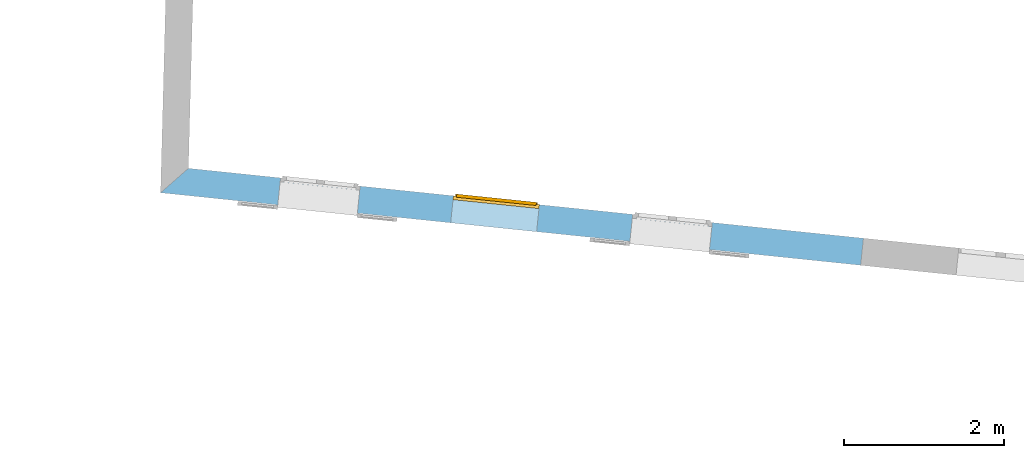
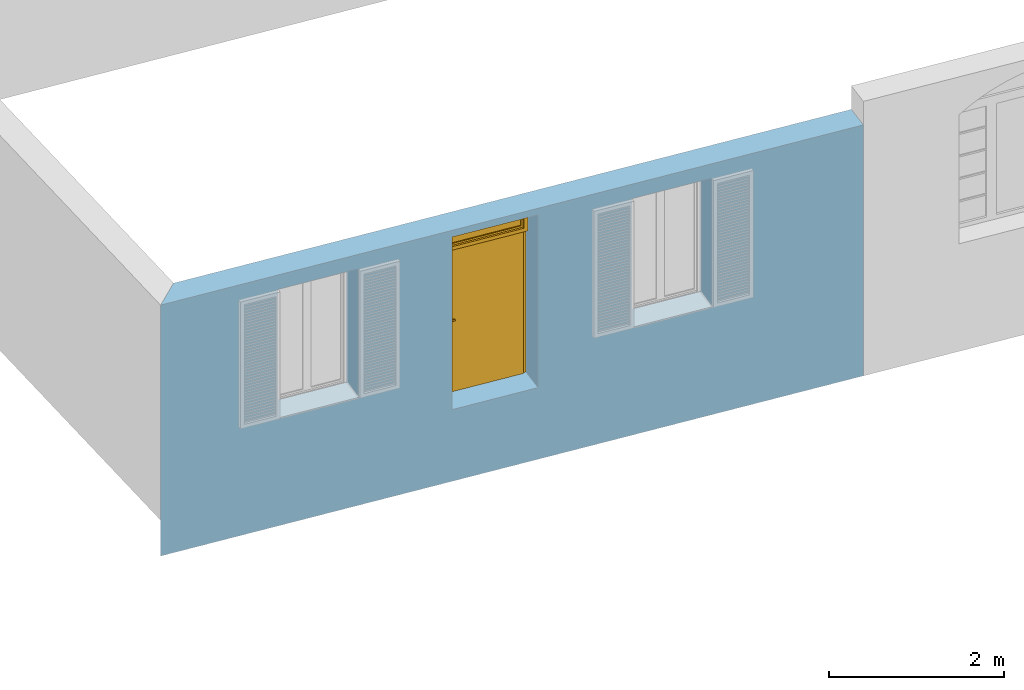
# One storey, part 113 of 171: 1 door, 1 window, 4 openings, plus 1 element that does not belong to this part.
"""IFC2X3 building model written with IfcOpenShell, lengths in millimetres."""

from ifc_helpers import new_model, entity, si_unit, converted_unit, derived_unit, money_unit, direction, frame, origin_with_axes, origin_2d_with_axis, place, context, subcontext, project, spatial, polyline, rectangle, outline, extrude, open_shell, faceted_brep, surface_model, material, layer, layer_set, layer_usage, type_object, element, fill, save


model = new_model("IFC2X3")

# Units and contexts
model_context = context("Model", 3, precision=0.01, world=origin_with_axes(), true_north=direction((0.0, 1.0)))
body_context = subcontext(model_context, "Body", "Model", "MODEL_VIEW")
ifc_project = project(units=[si_unit("LENGTHUNIT", "METRE", prefix="MILLI"), si_unit("AREAUNIT", "SQUARE_METRE"), si_unit("VOLUMEUNIT", "CUBIC_METRE"), converted_unit("PLANEANGLEUNIT", "DEGREE", entity("IfcPlaneAngleMeasure", 0.0174532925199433), si_unit("PLANEANGLEUNIT", "RADIAN"), dimensions=[0, 0, 0, 0, 0, 0, 0]), money_unit("USD"), converted_unit("TIMEUNIT", "Year", entity("IfcTimeMeasure", 31557600.0), si_unit("TIMEUNIT", "SECOND"), dimensions=[0, 0, 1, 0, 0, 0, 0]), si_unit("MASSUNIT", "GRAM", prefix="KILO"), si_unit("THERMODYNAMICTEMPERATUREUNIT", "DEGREE_CELSIUS"), si_unit("LUMINOUSINTENSITYUNIT", "LUMEN"), si_unit("ENERGYUNIT", "JOULE", prefix="MEGA"), derived_unit("THERMALCONDUCTANCEUNIT", [(si_unit("POWERUNIT", "WATT"), 1), (si_unit("LENGTHUNIT", "METRE"), -1), (si_unit("THERMODYNAMICTEMPERATUREUNIT", "KELVIN"), -1)]), derived_unit("SPECIFICHEATCAPACITYUNIT", [(si_unit("ENERGYUNIT", "JOULE"), 1), (si_unit("MASSUNIT", "GRAM", prefix="KILO"), -1), (si_unit("THERMODYNAMICTEMPERATUREUNIT", "KELVIN"), -1)]), derived_unit("MASSDENSITYUNIT", [(si_unit("MASSUNIT", "GRAM", prefix="KILO"), 1), (si_unit("VOLUMEUNIT", "CUBIC_METRE"), -1)])], contexts=[model_context])

# Site, building, storey
site_placement = place(None, origin_with_axes())
site = spatial("IfcSite", under=ifc_project, at=site_placement, Name="Site", CompositionType="ELEMENT")
building_placement = place(site_placement, origin_with_axes())
building = spatial("IfcBuilding", under=site, at=building_placement, Name="Bâtiment", CompositionType="ELEMENT")
storey_placement = place(building_placement, frame((0.0, 0.0, 3000.0), z_axis=(0.0, 0.0, 1.0), x_axis=(1.0, 0.0, 0.0)))
storey = spatial("IfcBuildingStorey", under=building, at=storey_placement, Name="rdc", CompositionType="ELEMENT", Elevation=3000.0)

# Wall, openings, door, window
ifc_material = material(Name="Empty Fill 272047960")
ifc_layer = layer(ifc_material, 339.9999999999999, ventilated="UNKNOWN")
ifc_layer_set = layer_set([ifc_layer], Name="Empty Fill 272047960 340")
ifc_layer_usage = layer_usage(ifc_layer_set, "AXIS2", "NEGATIVE", 0.0)
wall_type = type_object("IfcWallType", Name="Empty Fill 272047960 340", PredefinedType="NOTDEFINED")
wall_placement = place(storey_placement, frame((2245882.942695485, -591753.5900529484, -500.0), z_axis=(0.0, 0.0, 1.0), x_axis=(-0.994678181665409, 0.1030306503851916, 0.0)))
wall = element("IfcWallStandardCase", 1, at=wall_placement, inside=storey, type_object=wall_type, material=ifc_layer_usage, Name="Mur-143", context=body_context, shape_type="SweptSolid", body=[
    extrude(outline(polyline([(0.0, -339.9999999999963), (8480.98711477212, -339.9999999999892), (8795.793367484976, 0.0), (-1.13686837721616e-10, 0.0), (0.0, -339.9999999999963)])), origin_with_axes(), (0.0, 0.0, 1.0), 3500.0),
])
opening_1_placement = place(wall_placement, frame((6823.329215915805, 0.0, 1500.0), z_axis=(0.0, 0.0, 1.0), x_axis=(1.0, 0.0, 0.0)))
element("IfcOpeningElement", 2, at=opening_1_placement, cuts=wall, Name="Fen-207", context=body_context, shape_type="SweptSolid", body=[
    extrude(rectangle(XDim=1000.000000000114, YDim=1800.0, at=origin_2d_with_axis()), frame((0.0, -289.999999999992, 900.0000000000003), z_axis=(0.0, -1.0, 0.0), x_axis=(-1.0, 0.0, 0.0)), (0.0, 0.0, -1.0), 629.9999999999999),
    extrude(rectangle(XDim=1000.000000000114, YDim=1800.0, at=origin_2d_with_axis()), frame((0.0, -289.9999999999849, 900.0000000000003), z_axis=(0.0, 1.0, 0.0), x_axis=(-1.0, 0.0, 0.0)), (0.0, 0.0, -1.0), 389.9999999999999),
])
opening_2_placement = place(wall_placement, frame((2398.957557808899, 0.0, 1500.0), z_axis=(0.0, 0.0, 1.0), x_axis=(1.0, 0.0, 0.0)))
element("IfcOpeningElement", 3, at=opening_2_placement, cuts=wall, Name="Fen-207", context=body_context, shape_type="SweptSolid", body=[
    extrude(rectangle(XDim=1000.000000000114, YDim=1800.0, at=origin_2d_with_axis()), frame((0.0, -289.999999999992, 900.0000000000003), z_axis=(0.0, 1.0, 0.0), x_axis=(1.0, 0.0, 0.0)), (0.0, 0.0, 1.0), 629.9999999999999),
    extrude(rectangle(XDim=1000.000000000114, YDim=1800.0, at=origin_2d_with_axis()), frame((0.0, -289.9999999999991, 900.0000000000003), z_axis=(0.0, -1.0, 0.0), x_axis=(1.0, 0.0, 0.0)), (0.0, 0.0, 1.0), 389.9999999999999),
])
opening_3_placement = place(wall_placement, frame((4611.143386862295, 0.0, 3000.0), z_axis=(0.0, 0.0, 1.0), x_axis=(1.0, 0.0, 0.0)))
opening_3 = element("IfcOpeningElement", 4, at=opening_3_placement, cuts=wall, Name="Fen-133", context=body_context, shape_type="SweptSolid", body=[
    extrude(rectangle(XDim=1080.000000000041, YDim=410.0000000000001, at=origin_2d_with_axis()), frame((1.13686837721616e-10, -289.999999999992, 205.0000000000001), z_axis=(0.0, -1.0, 0.0), x_axis=(-1.0, 0.0, 0.0)), (0.0, 0.0, -1.0), 629.9999999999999),
    extrude(rectangle(XDim=1079.999999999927, YDim=410.0000000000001, at=origin_2d_with_axis()), frame((1.13686837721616e-10, -289.999999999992, 205.0000000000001), z_axis=(0.0, 1.0, 0.0), x_axis=(-1.0, 0.0, 0.0)), (0.0, 0.0, -1.0), 389.9999999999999),
])
opening_4_placement = place(wall_placement, frame((4611.143386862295, 0.0, 1000.0), z_axis=(0.0, 0.0, 1.0), x_axis=(1.0, 0.0, 0.0)))
opening_4 = element("IfcOpeningElement", 5, at=opening_4_placement, cuts=wall, Name="Por-283", context=body_context, shape_type="SweptSolid", body=[
    extrude(rectangle(XDim=1080.000004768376, YDim=2080.0, at=origin_2d_with_axis()), frame((-2.384012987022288e-06, 340.0000000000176, 1040.0), z_axis=(0.0, -1.0, 0.0), x_axis=(-1.0, 0.0, 0.0)), (0.0, 0.0, 1.0), 679.9999999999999),
])
door_style = type_object("IfcDoorStyle", Name="Porte_1v", ConstructionType="NOTDEFINED", OperationType="NOTDEFINED", ParameterTakesPrecedence=False, Sizeable=False)
door_placement = place(opening_4_placement, frame((500.0, -1.06581410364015e-10, 0.0), z_axis=(0.0, 0.0, 1.0), x_axis=(-1.0, 0.0, 0.0)))
door = element("IfcDoor", 6, at=door_placement, inside=storey, type_object=door_style, Name="Por-283", OverallHeight=2040.0, OverallWidth=1000.0, context=body_context, shape_type="Brep", body=[
    faceted_brep([(1039.999999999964, 339.9999999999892, 0.0), (984.9999999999, 339.9999999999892, 0.0), (984.9999999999, 339.9999999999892, 2025.0), (15.00000000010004, 339.9999999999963, 2025.0), (15.00000000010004, 339.9999999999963, 0.0), (-39.99999999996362, 339.9999999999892, 0.0), (-39.99999999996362, 339.9999999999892, 2080.0), (1039.999999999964, 339.9999999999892, 2080.0), (1000.000000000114, 339.9999999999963, 0.0), (1000.000000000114, 324.9999999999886, 0.0), (985.0000000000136, 324.9999999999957, 0.0), (985.0000000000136, 324.9999999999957, 2025.0), (15.00000000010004, 325.0000000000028, 2025.0), (15.00000000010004, 325.0000000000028, 0.0), (0.0, 324.9999999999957, 0.0), (0.0, 339.9999999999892, 0.0), (0.0, 339.9999999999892, 2040.0), (1000.000000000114, 339.9999999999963, 2040.0), (1000.000000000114, 324.9999999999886, 2040.0), (0.0, 324.9999999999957, 2040.0)], [[[0, 1, 2, 3, 4, 5, 6, 7]], [[0, 8, 9, 10, 1]], [[1, 10, 11, 2]], [[2, 11, 12, 3]], [[3, 12, 13, 4]], [[5, 4, 13, 14, 15]], [[8, 0, 7, 6, 5, 15, 16, 17]], [[9, 8, 17, 18]], [[10, 9, 18, 19, 14, 13, 12, 11]], [[19, 16, 15, 14]], [[18, 17, 16, 19]]]),
    faceted_brep([(64.99999999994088, 324.9999999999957, 900.0000000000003), (25.00000000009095, 324.9999999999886, 900.0000000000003), (25.00000000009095, 324.9999999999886, 1100.0), (64.99999999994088, 324.9999999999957, 1100.0), (65.00000000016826, 314.9999999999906, 900.0000000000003), (24.99999999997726, 314.9999999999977, 900.0000000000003), (24.99999999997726, 314.9999999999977, 1100.0), (65.00000000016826, 314.9999999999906, 1100.0)], [[[0, 1, 2, 3]], [[1, 0, 4, 5]], [[2, 1, 5, 6]], [[3, 2, 6, 7]], [[0, 3, 7, 4]], [[5, 4, 7, 6]]]),
    faceted_brep([(135.0000000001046, 314.9999999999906, 1000.0), (35.00000000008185, 314.9999999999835, 1000.0), (35.00000000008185, 314.9999999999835, 1020.0), (135.0000000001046, 314.9999999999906, 1020.0), (135.0000000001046, 295.0000000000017, 1000.0), (35.00000000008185, 294.9999999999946, 1000.0), (35.00000000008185, 294.9999999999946, 1020.0), (135.0000000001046, 295.0000000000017, 1020.0)], [[[0, 1, 2, 3]], [[1, 0, 4, 5]], [[2, 1, 5, 6]], [[3, 2, 6, 7]], [[0, 3, 7, 4]], [[5, 4, 7, 6]]]),
    faceted_brep([(64.99999999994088, 374.9999999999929, 900.0000000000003), (25.00000000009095, 374.9999999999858, 900.0000000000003), (25.00000000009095, 374.9999999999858, 1100.0), (64.99999999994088, 374.9999999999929, 1100.0), (64.99999999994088, 364.9999999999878, 900.0000000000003), (25.00000000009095, 365.000000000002, 900.0000000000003), (25.00000000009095, 365.000000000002, 1100.0), (64.99999999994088, 364.9999999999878, 1100.0)], [[[0, 1, 2, 3]], [[1, 0, 4, 5]], [[2, 1, 5, 6]], [[3, 2, 6, 7]], [[0, 3, 7, 4]], [[5, 4, 7, 6]]]),
    faceted_brep([(134.9999999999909, 394.9999999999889, 1000.0), (34.99999999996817, 394.9999999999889, 1000.0), (34.99999999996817, 394.9999999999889, 1020.0), (134.9999999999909, 394.9999999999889, 1020.0), (135.0000000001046, 375.0, 1000.0), (35.00000000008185, 375.0, 1000.0), (35.00000000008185, 375.0, 1020.0), (135.0000000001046, 375.0, 1020.0)], [[[0, 1, 2, 3]], [[1, 0, 4, 5]], [[2, 1, 5, 6]], [[3, 2, 6, 7]], [[0, 3, 7, 4]], [[5, 4, 7, 6]]]),
    faceted_brep([(0.0, 364.9999999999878, 0.0), (1000.0, 364.9999999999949, 0.0), (1000.000000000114, 324.9999999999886, 0.0), (0.0, 324.9999999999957, 0.0), (0.0, 364.9999999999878, 2040.0), (1000.0, 364.9999999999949, 2040.0), (1000.000000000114, 324.9999999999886, 2040.0), (0.0, 324.9999999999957, 2040.0)], [[[0, 1, 2, 3]], [[0, 4, 5, 1]], [[1, 5, 6, 2]], [[3, 2, 6, 7]], [[4, 0, 3, 7]], [[5, 4, 7, 6]]]),
])
fill(opening_4, door)
window_style = type_object("IfcWindowStyle", Name="Fenêtre 27", ConstructionType="NOTDEFINED", OperationType="SINGLE_PANEL", ParameterTakesPrecedence=False, Sizeable=False)
window_placement = place(opening_3_placement, frame((539.9999999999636, 0.0, 0.0), z_axis=(0.0, 0.0, 1.0), x_axis=(-1.0, 0.0, 0.0)))
window = element("IfcWindow", 7, at=window_placement, inside=storey, type_object=window_style, Name="Fen-133", OverallHeight=410.0, OverallWidth=1080.0, context=body_context, shape_type="SurfaceModel", body=[
    faceted_brep([(24.99999999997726, 339.9999999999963, 360.0000000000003), (0.0, 339.9999999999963, 360.0000000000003), (1.13686837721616e-10, 290.0000000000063, 360.0000000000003), (50.00000000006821, 289.9999999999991, 360.0000000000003), (50.00000000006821, 314.9999999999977, 360.0000000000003), (25.00000000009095, 314.9999999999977, 360.0000000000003), (24.99999999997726, 339.9999999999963, 49.99999999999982), (0.0, 339.9999999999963, 49.99999999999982), (1.13686837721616e-10, 290.0000000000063, 49.99999999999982), (50.00000000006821, 289.9999999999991, 49.99999999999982), (50.00000000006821, 314.9999999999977, 49.99999999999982), (25.00000000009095, 314.9999999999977, 49.99999999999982)], [[[0, 1, 2, 3, 4, 5]], [[6, 7, 1, 0]], [[1, 7, 8, 2]], [[2, 8, 9, 3]], [[4, 3, 9, 10]], [[10, 11, 5, 4]], [[5, 11, 6, 0]], [[11, 10, 9, 8, 7, 6]]]),
    faceted_brep([(1029.999999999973, 314.9999999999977, 360.0000000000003), (1029.999999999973, 289.9999999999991, 360.0000000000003), (1079.999999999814, 289.999999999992, 360.0000000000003), (1079.999999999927, 340.0000000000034, 360.0000000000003), (1054.99999999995, 340.0000000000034, 360.0000000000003), (1054.999999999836, 314.9999999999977, 360.0000000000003), (1029.999999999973, 314.9999999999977, 49.99999999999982), (1029.999999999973, 289.9999999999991, 49.99999999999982), (1079.999999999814, 289.999999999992, 49.99999999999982), (1079.999999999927, 340.0000000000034, 49.99999999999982), (1054.99999999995, 340.0000000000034, 49.99999999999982), (1054.999999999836, 314.9999999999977, 49.99999999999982)], [[[0, 1, 2, 3, 4, 5]], [[6, 7, 1, 0]], [[8, 2, 1, 7]], [[9, 3, 2, 8]], [[4, 3, 9, 10]], [[10, 11, 5, 4]], [[5, 11, 6, 0]], [[11, 10, 9, 8, 7, 6]]]),
    faceted_brep([(1029.999999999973, 314.9999999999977, 49.99999999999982), (1029.999999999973, 289.9999999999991, 49.99999999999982), (1079.999999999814, 289.999999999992, 49.99999999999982), (1079.999999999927, 340.0000000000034, 49.99999999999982), (1054.99999999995, 340.0000000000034, 49.99999999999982), (1054.999999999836, 314.9999999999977, 49.99999999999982), (50.00000000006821, 314.9999999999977, 49.99999999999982), (50.00000000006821, 289.9999999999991, 49.99999999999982), (1.13686837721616e-10, 290.0000000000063, 49.99999999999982), (1.13686837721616e-10, 290.0000000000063, 0.0), (1079.999999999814, 289.999999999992, 0.0), (1079.999999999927, 340.0000000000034, 0.0), (24.99999999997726, 339.9999999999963, 25.00000000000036), (1054.99999999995, 340.0000000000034, 25.00000000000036), (0.0, 339.9999999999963, 0.0), (0.0, 339.9999999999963, 49.99999999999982), (24.99999999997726, 339.9999999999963, 49.99999999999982), (1054.999999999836, 314.9999999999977, 25.00000000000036), (25.00000000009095, 314.9999999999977, 25.00000000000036), (25.00000000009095, 314.9999999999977, 49.99999999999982)], [[[0, 1, 2, 3, 4, 5]], [[6, 7, 1, 0]], [[8, 9, 10, 2, 1, 7]], [[11, 3, 2, 10]], [[12, 13, 4, 3, 11, 14, 15, 16]], [[13, 17, 5, 4]], [[5, 17, 18, 19, 6, 0]], [[19, 16, 15, 8, 7, 6]], [[15, 14, 9, 8]], [[14, 11, 10, 9]], [[12, 18, 17, 13]], [[19, 18, 12, 16]]]),
    faceted_brep([(24.99999999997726, 339.9999999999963, 360.0000000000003), (0.0, 339.9999999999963, 360.0000000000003), (0.0, 339.9999999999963, 410.0000000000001), (1079.999999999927, 340.0000000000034, 410.0000000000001), (1079.999999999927, 340.0000000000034, 360.0000000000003), (1054.99999999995, 340.0000000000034, 360.0000000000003), (1054.99999999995, 340.0000000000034, 384.9999999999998), (24.99999999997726, 339.9999999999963, 384.9999999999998), (25.00000000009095, 314.9999999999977, 360.0000000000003), (50.00000000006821, 314.9999999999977, 360.0000000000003), (50.00000000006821, 289.9999999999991, 360.0000000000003), (1.13686837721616e-10, 290.0000000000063, 360.0000000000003), (1.13686837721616e-10, 290.0000000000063, 410.0000000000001), (1079.999999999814, 289.999999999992, 410.0000000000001), (1079.999999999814, 289.999999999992, 360.0000000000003), (1054.999999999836, 314.9999999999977, 360.0000000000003), (1029.999999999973, 289.9999999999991, 360.0000000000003), (1029.999999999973, 314.9999999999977, 360.0000000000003), (1054.999999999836, 314.9999999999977, 384.9999999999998), (25.00000000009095, 314.9999999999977, 384.9999999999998)], [[[0, 1, 2, 3, 4, 5, 6, 7]], [[8, 9, 10, 11, 1, 0]], [[2, 1, 11, 12]], [[3, 2, 12, 13]], [[4, 3, 13, 14]], [[15, 5, 4, 14, 16, 17]], [[5, 15, 18, 6]], [[6, 18, 19, 7]], [[7, 19, 8, 0]], [[17, 9, 8, 19, 18, 15]], [[17, 16, 10, 9]], [[14, 13, 12, 11, 10, 16]]]),
    faceted_brep([(75.00000000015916, 315.0000000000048, 334.9999999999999), (75.00000000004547, 365.000000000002, 334.9999999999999), (25.00000000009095, 365.0000000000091, 334.9999999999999), (25.00000000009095, 314.9999999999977, 334.9999999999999), (75.00000000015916, 315.0000000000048, 75.00000000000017), (75.00000000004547, 365.000000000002, 75.00000000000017), (25.00000000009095, 365.0000000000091, 75.00000000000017), (25.00000000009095, 314.9999999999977, 75.00000000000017)], [[[0, 1, 2, 3]], [[4, 5, 1, 0]], [[1, 5, 6, 2]], [[3, 2, 6, 7]], [[0, 3, 7, 4]], [[7, 6, 5, 4]]]),
    faceted_brep([(1004.999999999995, 314.9999999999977, 75.00000000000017), (1004.999999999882, 364.9999999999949, 75.00000000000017), (1054.99999999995, 365.0000000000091, 75.00000000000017), (1054.999999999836, 314.9999999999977, 75.00000000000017), (1004.999999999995, 314.9999999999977, 334.9999999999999), (1004.999999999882, 364.9999999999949, 334.9999999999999), (1054.99999999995, 365.0000000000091, 334.9999999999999), (1054.999999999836, 314.9999999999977, 334.9999999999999)], [[[0, 1, 2, 3]], [[4, 5, 1, 0]], [[1, 5, 6, 2]], [[3, 2, 6, 7]], [[0, 3, 7, 4]], [[7, 6, 5, 4]]]),
    faceted_brep([(1054.999999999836, 314.9999999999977, 25.00000000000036), (1054.99999999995, 365.0000000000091, 25.00000000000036), (1054.99999999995, 365.0000000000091, 75.00000000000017), (1054.999999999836, 314.9999999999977, 75.00000000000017), (25.00000000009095, 314.9999999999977, 25.00000000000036), (25.00000000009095, 365.0000000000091, 25.00000000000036), (25.00000000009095, 365.0000000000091, 75.00000000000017), (75.00000000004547, 365.000000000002, 75.00000000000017), (1004.999999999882, 364.9999999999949, 75.00000000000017), (1004.999999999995, 314.9999999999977, 75.00000000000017), (75.00000000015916, 315.0000000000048, 75.00000000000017), (25.00000000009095, 314.9999999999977, 75.00000000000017)], [[[0, 1, 2, 3]], [[4, 5, 1, 0]], [[1, 5, 6, 7, 8, 2]], [[3, 2, 8, 9]], [[0, 3, 9, 10, 11, 4]], [[11, 6, 5, 4]], [[10, 7, 6, 11]], [[9, 8, 7, 10]]]),
    faceted_brep([(25.00000000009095, 314.9999999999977, 384.9999999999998), (25.00000000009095, 365.0000000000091, 384.9999999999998), (25.00000000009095, 365.0000000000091, 334.9999999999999), (25.00000000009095, 314.9999999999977, 334.9999999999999), (1054.999999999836, 314.9999999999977, 384.9999999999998), (1054.99999999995, 365.0000000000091, 384.9999999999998), (1054.99999999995, 365.0000000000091, 334.9999999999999), (1004.999999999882, 364.9999999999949, 334.9999999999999), (75.00000000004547, 365.000000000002, 334.9999999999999), (75.00000000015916, 315.0000000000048, 334.9999999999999), (1004.999999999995, 314.9999999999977, 334.9999999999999), (1054.999999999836, 314.9999999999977, 334.9999999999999)], [[[0, 1, 2, 3]], [[4, 5, 1, 0]], [[1, 5, 6, 7, 8, 2]], [[3, 2, 8, 9]], [[0, 3, 9, 10, 11, 4]], [[11, 6, 5, 4]], [[10, 7, 6, 11]], [[9, 8, 7, 10]]]),
    surface_model("IfcShellBasedSurfaceModel", [(75.00000000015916, 330.0000000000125, 75.00000000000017), (1004.999999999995, 330.0000000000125, 75.00000000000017), (1004.999999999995, 330.0000000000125, 334.9999999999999), (75.00000000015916, 330.0000000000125, 334.9999999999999)], [open_shell([[[0, 1, 2, 3]]])]),
    surface_model("IfcShellBasedSurfaceModel", [(75.00000000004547, 350.0000000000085, 75.00000000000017), (75.00000000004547, 350.0000000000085, 334.9999999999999), (1004.999999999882, 350.0000000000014, 334.9999999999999), (1004.999999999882, 350.0000000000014, 75.00000000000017)], [open_shell([[[0, 1, 2, 3]]])]),
])
fill(opening_3, window)

save(model, "model.ifc")
